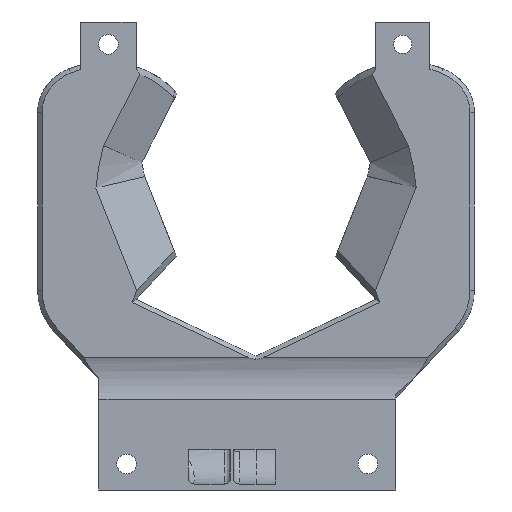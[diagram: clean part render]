
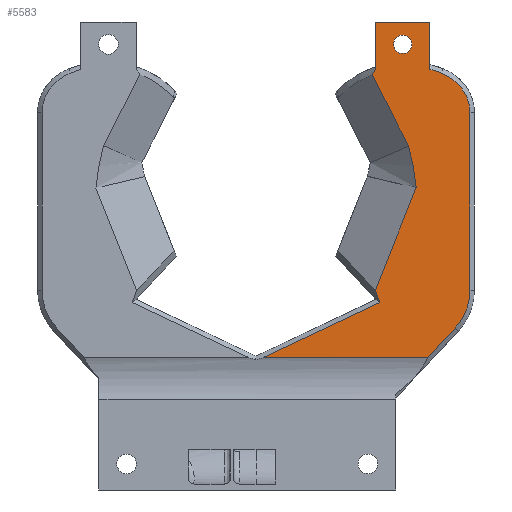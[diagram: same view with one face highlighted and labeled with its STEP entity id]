
A CAD part, left-side view. The second image highlights one B-rep face of the part: STEP entity #5583.
In plain terms, the highlighted planar face has unit normal (-1, 0, 0).
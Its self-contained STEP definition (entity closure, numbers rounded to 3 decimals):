
#226=FACE_BOUND('',#1043,.T.);
#244=CIRCLE('',#5922,9.25);
#245=CIRCLE('',#5923,1.55);
#391=B_SPLINE_CURVE_WITH_KNOTS('',3,(#7702,#7703,#7704,#7705,#7706,#7707,
#7708),.UNSPECIFIED.,.F.,.F.,(4,3,4),(-0.865,-0.371,
0.),.UNSPECIFIED.);
#392=B_SPLINE_CURVE_WITH_KNOTS('',3,(#7710,#7711,#7712,#7713),
 .UNSPECIFIED.,.F.,.F.,(4,4),(-0.21,0.),
 .UNSPECIFIED.);
#393=B_SPLINE_CURVE_WITH_KNOTS('',3,(#7721,#7722,#7723,#7724),
 .UNSPECIFIED.,.F.,.F.,(4,4),(-0.119,-0.014),
 .UNSPECIFIED.);
#394=B_SPLINE_CURVE_WITH_KNOTS('',3,(#7728,#7729,#7730,#7731,#7732,#7733),
 .UNSPECIFIED.,.F.,.F.,(4,2,4),(-0.697,-0.302,0.),
 .UNSPECIFIED.);
#395=B_SPLINE_CURVE_WITH_KNOTS('',3,(#7735,#7736,#7737,#7738,#7739,#7740),
 .UNSPECIFIED.,.F.,.F.,(4,2,4),(-0.004,-0.002,
-0.002),.UNSPECIFIED.);
#714=FACE_OUTER_BOUND('',#1042,.T.);
#1042=EDGE_LOOP('',(#3734,#3735,#3736,#3737,#3738,#3739,#3740,#3741,#3742,
#3743,#3744,#3745,#3746,#3747,#3748,#3749));
#1043=EDGE_LOOP('',(#3750));
#1375=LINE('',#7580,#1798);
#1382=LINE('',#7595,#1805);
#1401=LINE('',#7678,#1824);
#1409=LINE('',#7696,#1832);
#1410=LINE('',#7700,#1833);
#1411=LINE('',#7715,#1834);
#1412=LINE('',#7717,#1835);
#1413=LINE('',#7719,#1836);
#1414=LINE('',#7726,#1837);
#1415=LINE('',#7741,#1838);
#1798=VECTOR('',#6324,10.);
#1805=VECTOR('',#6335,10.);
#1824=VECTOR('',#6376,10.);
#1832=VECTOR('',#6392,10.);
#1833=VECTOR('',#6395,10.);
#1834=VECTOR('',#6396,10.);
#1835=VECTOR('',#6397,10.);
#1836=VECTOR('',#6398,10.);
#1837=VECTOR('',#6399,10.);
#1838=VECTOR('',#6400,10.);
#2221=VERTEX_POINT('',#7577);
#2222=VERTEX_POINT('',#7579);
#2228=VERTEX_POINT('',#7593);
#2255=VERTEX_POINT('',#7676);
#2261=VERTEX_POINT('',#7695);
#2262=VERTEX_POINT('',#7697);
#2263=VERTEX_POINT('',#7699);
#2264=VERTEX_POINT('',#7701);
#2265=VERTEX_POINT('',#7709);
#2266=VERTEX_POINT('',#7714);
#2267=VERTEX_POINT('',#7716);
#2268=VERTEX_POINT('',#7718);
#2269=VERTEX_POINT('',#7720);
#2270=VERTEX_POINT('',#7725);
#2271=VERTEX_POINT('',#7727);
#2272=VERTEX_POINT('',#7734);
#2273=VERTEX_POINT('',#7742);
#2785=EDGE_CURVE('',#2221,#2222,#1375,.T.);
#2793=EDGE_CURVE('',#2221,#2228,#1382,.T.);
#2823=EDGE_CURVE('',#2228,#2255,#1401,.T.);
#2832=EDGE_CURVE('',#2261,#2255,#1409,.T.);
#2833=EDGE_CURVE('',#2262,#2261,#244,.T.);
#2834=EDGE_CURVE('',#2263,#2262,#1410,.T.);
#2835=EDGE_CURVE('',#2264,#2263,#391,.T.);
#2836=EDGE_CURVE('',#2265,#2264,#392,.T.);
#2837=EDGE_CURVE('',#2266,#2265,#1411,.T.);
#2838=EDGE_CURVE('',#2267,#2266,#1412,.T.);
#2839=EDGE_CURVE('',#2268,#2267,#1413,.T.);
#2840=EDGE_CURVE('',#2269,#2268,#393,.T.);
#2841=EDGE_CURVE('',#2270,#2269,#1414,.T.);
#2842=EDGE_CURVE('',#2271,#2270,#394,.T.);
#2843=EDGE_CURVE('',#2272,#2271,#395,.T.);
#2844=EDGE_CURVE('',#2222,#2272,#1415,.T.);
#2845=EDGE_CURVE('',#2273,#2273,#245,.T.);
#3734=ORIENTED_EDGE('',*,*,#2793,.T.);
#3735=ORIENTED_EDGE('',*,*,#2823,.T.);
#3736=ORIENTED_EDGE('',*,*,#2832,.F.);
#3737=ORIENTED_EDGE('',*,*,#2833,.F.);
#3738=ORIENTED_EDGE('',*,*,#2834,.F.);
#3739=ORIENTED_EDGE('',*,*,#2835,.F.);
#3740=ORIENTED_EDGE('',*,*,#2836,.F.);
#3741=ORIENTED_EDGE('',*,*,#2837,.F.);
#3742=ORIENTED_EDGE('',*,*,#2838,.F.);
#3743=ORIENTED_EDGE('',*,*,#2839,.F.);
#3744=ORIENTED_EDGE('',*,*,#2840,.F.);
#3745=ORIENTED_EDGE('',*,*,#2841,.F.);
#3746=ORIENTED_EDGE('',*,*,#2842,.F.);
#3747=ORIENTED_EDGE('',*,*,#2843,.F.);
#3748=ORIENTED_EDGE('',*,*,#2844,.F.);
#3749=ORIENTED_EDGE('',*,*,#2785,.F.);
#3750=ORIENTED_EDGE('',*,*,#2845,.F.);
#5464=PLANE('',#5921);
#5583=ADVANCED_FACE('',(#714,#226),#5464,.F.);
#5921=AXIS2_PLACEMENT_3D('',#7694,#6390,#6391);
#5922=AXIS2_PLACEMENT_3D('',#7698,#6393,#6394);
#5923=AXIS2_PLACEMENT_3D('',#7743,#6401,#6402);
#6324=DIRECTION('',(0.,0.339,0.941));
#6335=DIRECTION('',(0.,0.904,-0.427));
#6376=DIRECTION('',(0.,-1.,0.));
#6390=DIRECTION('center_axis',(1.,0.,0.));
#6391=DIRECTION('ref_axis',(0.,0.,1.));
#6392=DIRECTION('',(0.,0.684,-0.73));
#6393=DIRECTION('center_axis',(1.,0.,0.));
#6394=DIRECTION('ref_axis',(0.,-0.93,-0.368));
#6395=DIRECTION('',(0.,0.,-1.));
#6396=DIRECTION('',(0.,0.,-1.));
#6397=DIRECTION('',(0.,-1.,0.));
#6398=DIRECTION('',(0.,0.,1.));
#6399=DIRECTION('',(0.,0.454,0.891));
#6400=DIRECTION('',(0.,-0.37,0.929));
#6401=DIRECTION('center_axis',(-1.,0.,0.));
#6402=DIRECTION('ref_axis',(0.,1.,0.));
#7577=CARTESIAN_POINT('',(-39.86,87.925,-47.852));
#7579=CARTESIAN_POINT('',(-39.86,88.662,-45.805));
#7580=CARTESIAN_POINT('',(-39.86,84.296,-57.934));
#7593=CARTESIAN_POINT('',(-39.86,107.439,-57.061));
#7595=CARTESIAN_POINT('',(-39.86,101.375,-54.199));
#7676=CARTESIAN_POINT('',(-39.86,79.899,-57.061));
#7678=CARTESIAN_POINT('',(-39.86,69.561,-57.061));
#7694=CARTESIAN_POINT('Origin',(-39.86,95.206,-82.));
#7695=CARTESIAN_POINT('',(-39.86,75.29,-52.143));
#7696=CARTESIAN_POINT('',(-39.86,90.114,-67.96));
#7697=CARTESIAN_POINT('',(-39.86,72.789,-45.818));
#7698=CARTESIAN_POINT('Origin',(-39.86,82.039,-45.818));
#7699=CARTESIAN_POINT('',(-39.86,72.789,-15.956));
#7700=CARTESIAN_POINT('',(-39.86,72.789,-63.195));
#7701=CARTESIAN_POINT('',(-39.86,77.522,-9.337));
#7702=CARTESIAN_POINT('Ctrl Pts',(-39.86,77.522,-9.337));
#7703=CARTESIAN_POINT('Ctrl Pts',(-39.86,75.97,-9.967));
#7704=CARTESIAN_POINT('Ctrl Pts',(-39.86,74.622,-11.069));
#7705=CARTESIAN_POINT('Ctrl Pts',(-39.86,73.776,-12.468));
#7706=CARTESIAN_POINT('Ctrl Pts',(-39.86,73.142,-13.516));
#7707=CARTESIAN_POINT('Ctrl Pts',(-39.86,72.789,-14.731));
#7708=CARTESIAN_POINT('Ctrl Pts',(-39.86,72.789,-15.956));
#7709=CARTESIAN_POINT('',(-39.86,79.519,-8.682));
#7710=CARTESIAN_POINT('Ctrl Pts',(-39.86,79.519,-8.682));
#7711=CARTESIAN_POINT('Ctrl Pts',(-39.86,78.84,-8.855));
#7712=CARTESIAN_POINT('Ctrl Pts',(-39.86,78.172,-9.073));
#7713=CARTESIAN_POINT('Ctrl Pts',(-39.86,77.522,-9.337));
#7714=CARTESIAN_POINT('',(-39.86,79.519,-0.768));
#7715=CARTESIAN_POINT('',(-39.86,79.519,-43.257));
#7716=CARTESIAN_POINT('',(-39.86,88.619,-0.768));
#7717=CARTESIAN_POINT('',(-39.86,111.334,-0.768));
#7718=CARTESIAN_POINT('',(-39.86,88.619,-8.683));
#7719=CARTESIAN_POINT('',(-39.86,88.619,-41.007));
#7720=CARTESIAN_POINT('',(-39.86,89.212,-9.544));
#7721=CARTESIAN_POINT('Ctrl Pts',(-39.86,89.212,-9.544));
#7722=CARTESIAN_POINT('Ctrl Pts',(-39.86,89.019,-9.254));
#7723=CARTESIAN_POINT('Ctrl Pts',(-39.86,88.821,-8.967));
#7724=CARTESIAN_POINT('Ctrl Pts',(-39.86,88.619,-8.683));
#7725=CARTESIAN_POINT('',(-39.86,83.055,-21.622));
#7726=CARTESIAN_POINT('',(-39.86,72.275,-42.77));
#7727=CARTESIAN_POINT('',(-39.86,81.81,-28.561));
#7728=CARTESIAN_POINT('Ctrl Pts',(-39.86,81.81,-28.561));
#7729=CARTESIAN_POINT('Ctrl Pts',(-39.86,81.93,-27.213));
#7730=CARTESIAN_POINT('Ctrl Pts',(-39.86,82.14,-25.867));
#7731=CARTESIAN_POINT('Ctrl Pts',(-39.86,82.588,-23.585));
#7732=CARTESIAN_POINT('Ctrl Pts',(-39.86,82.812,-22.599));
#7733=CARTESIAN_POINT('Ctrl Pts',(-39.86,83.055,-21.622));
#7734=CARTESIAN_POINT('',(-39.86,81.809,-28.58));
#7735=CARTESIAN_POINT('Ctrl Pts',(-39.86,81.809,-28.58));
#7736=CARTESIAN_POINT('Ctrl Pts',(-39.86,81.809,-28.574));
#7737=CARTESIAN_POINT('Ctrl Pts',(-39.86,81.81,-28.569));
#7738=CARTESIAN_POINT('Ctrl Pts',(-39.86,81.81,-28.562));
#7739=CARTESIAN_POINT('Ctrl Pts',(-39.86,81.81,-28.562));
#7740=CARTESIAN_POINT('Ctrl Pts',(-39.86,81.81,-28.561));
#7741=CARTESIAN_POINT('',(-39.86,94.683,-60.939));
#7742=CARTESIAN_POINT('',(-39.86,82.518,-4.515));
#7743=CARTESIAN_POINT('Origin',(-39.86,84.068,-4.515));
